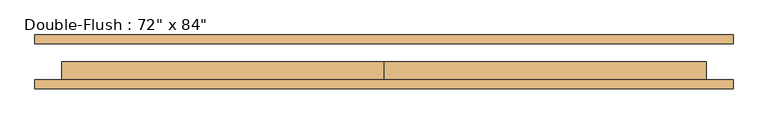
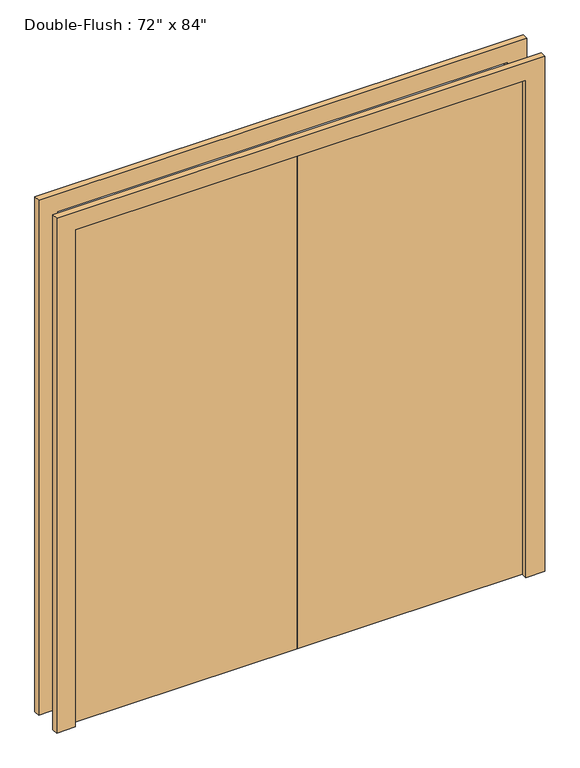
"""IFC4 building model written with IfcOpenShell, lengths in millimetres: door geometry."""

from ifc_helpers import new_model, si_unit, frame, origin, origin_with_axes, place, context, project, spatial, polyline, outline, extrude, source, transform, mapped, element, save


def door_824c45fc(model_context):
    return source(origin(), model_context, "Body", "SweptSolid", [
        extrude(outline(polyline([(0.0, -50.8), (0.0, 0.0), (914.4, 0.0), (914.4, -50.8), (0.0, -50.8)])), origin_with_axes(), (0.0, 0.0, 1.0), 2133.6),
        extrude(outline(polyline([(-914.4, -50.8), (-914.4, 0.0), (0.0, 0.0), (0.0, -50.8), (-914.4, -50.8)])), origin_with_axes(), (0.0, 0.0, 1.0), 2133.6),
        extrude(outline(polyline([(2133.6, -914.4), (2133.6, 914.4), (0.0, 914.4), (0.0, 990.6), (2209.8, 990.6), (2209.8, -990.6), (0.0, -990.6), (0.0, -914.4), (2133.6, -914.4)])), frame((0.0, 50.8, 0.0), z_axis=(0.0, 1.0, 0.0), x_axis=(0.0, 0.0, 1.0)), (0.0, 0.0, 1.0), 25.4),
        extrude(outline(polyline([(2133.6, -914.4), (2133.6, 914.4), (0.0, 914.4), (0.0, 990.6), (2209.8, 990.6), (2209.8, -990.6), (0.0, -990.6), (0.0, -914.4), (2133.6, -914.4)])), frame((0.0, -76.2, 0.0), z_axis=(0.0, 1.0, 0.0), x_axis=(0.0, 0.0, 1.0)), (0.0, 0.0, 1.0), 25.4),
    ])


if __name__ == "__main__":
    model = new_model("IFC4")
    model_context = context("Model", 3, world=origin())
    ifc_project = project(units=[si_unit("LENGTHUNIT", "METRE", prefix="MILLI")], contexts=[model_context])
    site = spatial("IfcSite", under=ifc_project)
    building = spatial("IfcBuilding", under=site)
    placement = place(None, origin())
    door_shape = door_824c45fc(model_context)
    element("IfcDoor", 1, ObjectType="Double-Flush : 72\" x 84\"", at=placement, inside=building, context=model_context, shape_type="MappedRepresentation", body=[
        mapped(door_shape, transform((0.0, 0.0, 0.0), x_axis=(1.0, 0.0, 0.0), y_axis=(0.0, 1.0, 0.0), z_axis=(0.0, 0.0, 1.0))),
    ])
    save(model, "model.ifc")
